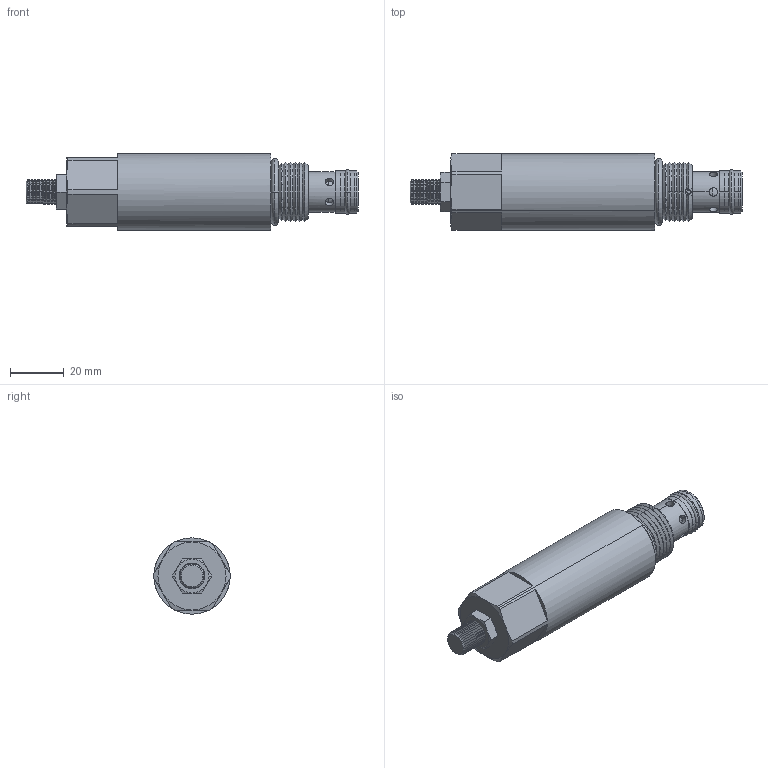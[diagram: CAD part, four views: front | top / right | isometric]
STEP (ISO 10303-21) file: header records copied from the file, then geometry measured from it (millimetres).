
FILE_DESCRIPTION((''),'2;1');
FILE_NAME('U:\Solid model CD\Solid model full\Mechanical\STEP\DERVB00-3D Full.stp','2008-07-28T16:15:03',('Dan'),(''),'Autodesk Inventor 9','Autodesk Inventor 9','');
FILE_SCHEMA(('AUTOMOTIVE_DESIGN { 1 0 10303 214 1 1 1 1 }'));
Length unit declared in the file: inch
Products named in the file (6): DERVB00-3D Full; DERVB00-3D Full1; DERVB00-3D Full2; DERVB00-3D Full3; DERVB00-3D Full4; DERVB00-3D Full5
Assembly tree (5 placements, depth 2):
  DERVB00-3D Full
    DERVB00-3D Full1
    DERVB00-3D Full2
    DERVB00-3D Full3
    DERVB00-3D Full4
    DERVB00-3D Full5
Bounding box: 123.95 x 28.45 x 28.45 mm (x, y, z)
Volume: 56197 mm3; surface area: 13180.5 mm2
Topology: 5 solids, 5 shells, 245 faces, 553 edges, 317 vertices
Faces by surface type: cone 138, plane 52, cylinder 47, torus 8
Entity records: 7266 total; most frequent: CARTESIAN_POINT 1796, DIRECTION 1174, ORIENTED_EDGE 1106, EDGE_CURVE 553, AXIS2_PLACEMENT_3D 496, VERTEX_POINT 317, EDGE_LOOP 268, FACE_OUTER_BOUND 245
